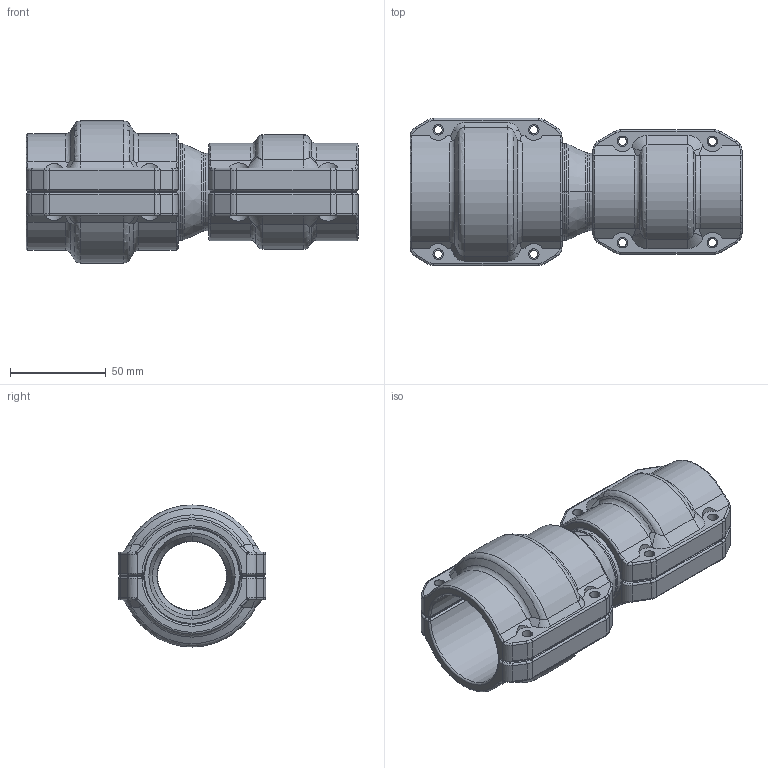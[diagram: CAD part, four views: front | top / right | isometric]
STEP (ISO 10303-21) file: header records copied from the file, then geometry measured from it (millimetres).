
FILE_DESCRIPTION((''),'2;1');
FILE_NAME('2015542199_ASM','2017-05-12T',('Administrator'),(''),'PRO/ENGINEER BY PARAMETRIC TECHNOLOGY CORPORATION, 2009360','PRO/ENGINEER BY PARAMETRIC TECHNOLOGY CORPORATION, 2009360','');
FILE_SCHEMA(('AUTOMOTIVE_DESIGN_CC2 { 1 2 10303 214 -1 1 5 2 }'));
Length unit declared in the file: millimetre
Products named in the file (8): 2015542100; 201540020001; 201540020000; 2015400200_ASM; 201550020001; 201550020000; 2015500200_ASM; 2015542199_ASM
Assembly tree (7 placements, depth 3):
  2015542199_ASM
    2015542100
    2015400200_ASM
      201540020001
      201540020000
    2015500200_ASM
      201550020001
      201550020000
Bounding box: 173.63 x 77 x 74.3 mm (x, y, z)
Volume: 264218.8 mm3; surface area: 94692.3 mm2
Topology: 5 solids, 5 shells, 460 faces, 1153 edges, 703 vertices
Faces by surface type: cylinder 192, torus 116, plane 74, bspline 50, sphere 16, cone 12
Entity records: 19601 total; most frequent: CARTESIAN_POINT 5071, DIRECTION 2336, ORIENTED_EDGE 2306, PRESENTATION_STYLE_ASSIGNMENT 1158, STYLED_ITEM 1158, CURVE_STYLE 1153, EDGE_CURVE 1153, AXIS2_PLACEMENT_3D 982
